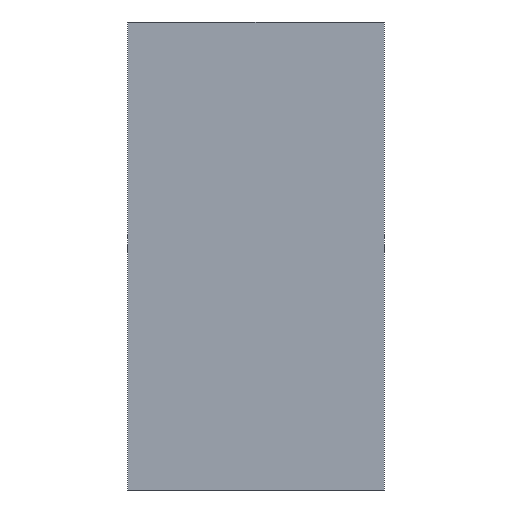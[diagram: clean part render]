
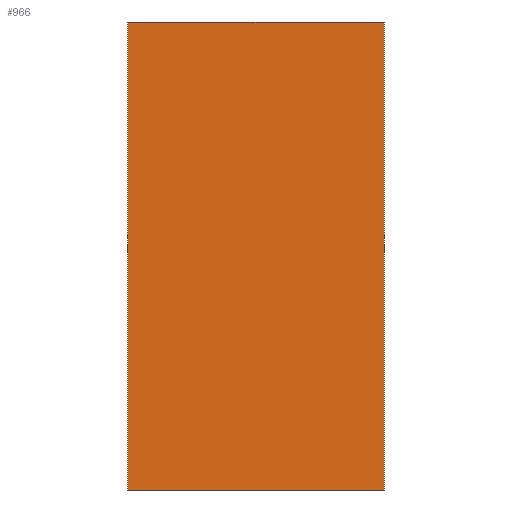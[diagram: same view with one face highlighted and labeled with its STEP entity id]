
A CAD part, front view. The second image highlights one B-rep face of the part: STEP entity #966.
In plain terms, the highlighted planar face has unit normal (0, -1, 0).
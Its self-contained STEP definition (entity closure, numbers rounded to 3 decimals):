
#73=DIRECTION('',(0.,0.,1.));
#74=VECTOR('',#73,210.);
#75=CARTESIAN_POINT('',(-57.5,71.2,-145.));
#76=LINE('',#75,#74);
#77=DIRECTION('',(1.,0.,0.));
#78=VECTOR('',#77,115.);
#79=CARTESIAN_POINT('',(-57.5,71.2,65.));
#80=LINE('',#79,#78);
#81=DIRECTION('',(0.,0.,-1.));
#82=VECTOR('',#81,210.);
#83=CARTESIAN_POINT('',(57.5,71.2,65.));
#84=LINE('',#83,#82);
#85=DIRECTION('',(-1.,0.,0.));
#86=VECTOR('',#85,115.);
#87=CARTESIAN_POINT('',(57.5,71.2,-145.));
#88=LINE('',#87,#86);
#699=CARTESIAN_POINT('',(-57.5,71.2,-145.));
#700=CARTESIAN_POINT('',(-57.5,71.2,65.));
#701=VERTEX_POINT('',#699);
#702=VERTEX_POINT('',#700);
#703=CARTESIAN_POINT('',(57.5,71.2,65.));
#704=CARTESIAN_POINT('',(57.5,71.2,-145.));
#705=VERTEX_POINT('',#703);
#706=VERTEX_POINT('',#704);
#953=CARTESIAN_POINT('',(0.,71.2,-40.));
#954=DIRECTION('',(0.,-1.,0.));
#955=DIRECTION('',(-1.,0.,0.));
#956=AXIS2_PLACEMENT_3D('',#953,#954,#955);
#957=PLANE('',#956);
#958=ORIENTED_EDGE('',*,*,#944,.T.);
#960=ORIENTED_EDGE('',*,*,#959,.T.);
#962=ORIENTED_EDGE('',*,*,#961,.T.);
#963=ORIENTED_EDGE('',*,*,#932,.T.);
#964=EDGE_LOOP('',(#958,#960,#962,#963));
#965=FACE_OUTER_BOUND('',#964,.F.);
#966=ADVANCED_FACE('',(#965),#957,.T.);
#932=EDGE_CURVE('',#706,#701,#88,.T.);
#944=EDGE_CURVE('',#701,#702,#76,.T.);
#959=EDGE_CURVE('',#702,#705,#80,.T.);
#961=EDGE_CURVE('',#705,#706,#84,.T.);
